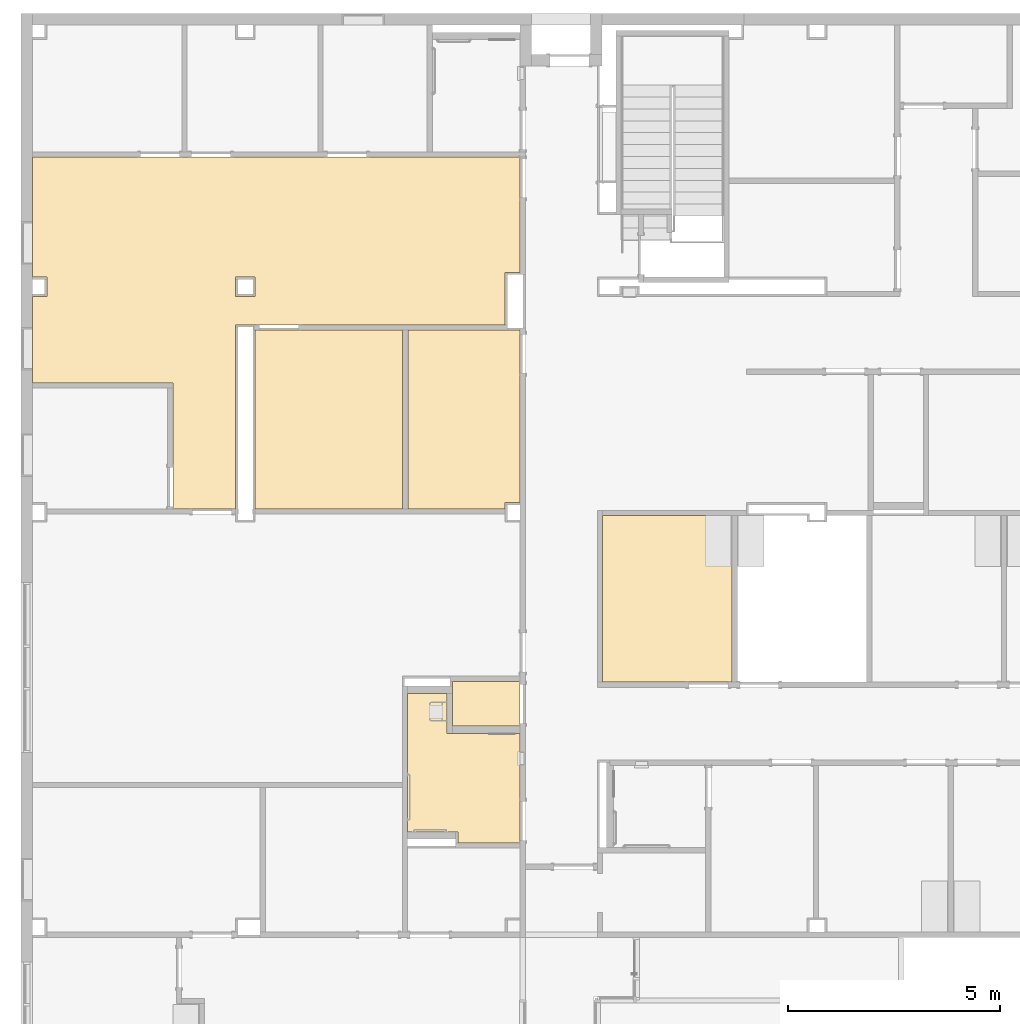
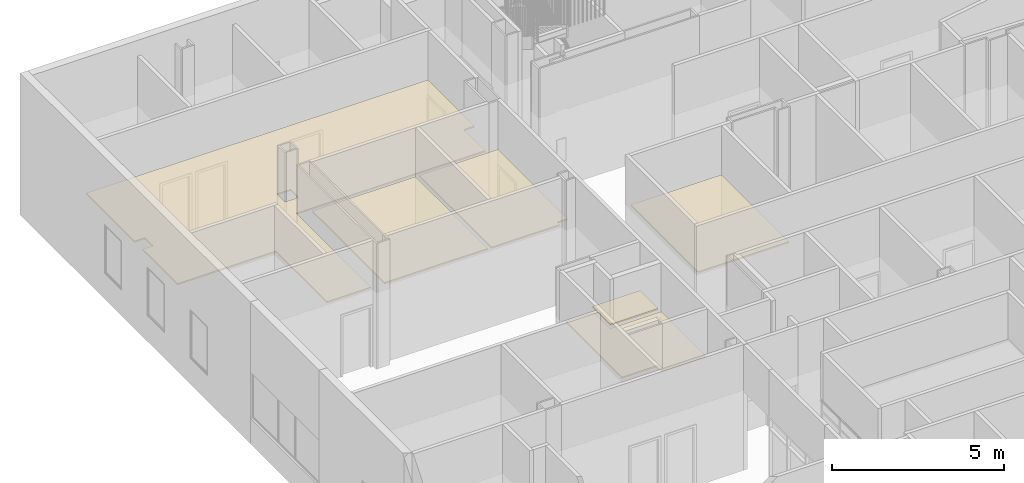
# One storey, part 52 of 87: 6 coverings.
"""IFC2X3 building model written with IfcOpenShell, lengths in metres."""

import ifcopenshell
import ifcopenshell.guid

model = None  # the IFC model being written
_history = None  # IfcOwnerHistory: only IFC2X3 demands one
_inside = {}  # id of a spatial element -> (the spatial element, [elements in it])
_under = {}  # id of a project, library or spatial element -> (it, [spatial elements below it])
_declared = {}  # id of a project -> (the project, [libraries it declares])
_typed = {}  # id of a type object -> (the type object, [elements of that type])
_made_of = {}  # id of a material, layer set ... -> (it, [elements and type objects made of it])


def new_model(schema):
    """Start an empty IFC model of exactly this schema.

    Asked for "IFC4X3", IfcOpenShell would pick the latest addendum, in which some entities
    have other attributes; the version numbers below select the first issue.
    IFC2X3 requires an IfcOwnerHistory on every rooted entity: one is made here for all.
    """
    global model, _history
    if schema == "IFC4X3":
        model = ifcopenshell.file(schema_version=(4, 3, 0, 0))
    else:
        model = ifcopenshell.file(schema=schema)
    _inside.clear()
    _under.clear()
    _declared.clear()
    _typed.clear()
    _made_of.clear()
    _history = None
    if model.schema == "IFC2X3":
        org = make("IfcOrganization", Name="unknown")
        user = make(
            "IfcPersonAndOrganization",
            ThePerson=make("IfcPerson", FamilyName="unknown"),
            TheOrganization=org,
        )
        app = make(
            "IfcApplication",
            ApplicationDeveloper=org,
            Version="unknown",
            ApplicationFullName="unknown",
            ApplicationIdentifier="unknown",
        )
        _history = make(
            "IfcOwnerHistory",
            OwningUser=user,
            OwningApplication=app,
            ChangeAction="ADDED",
            CreationDate=0,
        )
    return model


def make(cls, **values):
    """One entity of the class cls with the attributes given. An attribute that is None is left unset."""
    return model.create_entity(
        cls, **{name: value for name, value in values.items() if value is not None}
    )


def entity(cls, *values):
    """Any entity or typed value of the class cls, its attributes in the order of the schema. None: left unset."""
    e = model.create_entity(cls)
    for i, value in enumerate(values):
        if value is not None:
            e[i] = value
    return e


def rooted(cls, **values):
    """An entity with a GlobalId (a new one), such as an element, a storey or a relation."""
    return make(cls, GlobalId=ifcopenshell.guid.new(), OwnerHistory=_history, **values)


def si_unit(unit_type, name, prefix=None):
    """IfcSIUnit, for example si_unit("LENGTHUNIT", "METRE", prefix="MILLI")."""
    return make("IfcSIUnit", UnitType=unit_type, Prefix=prefix, Name=name)


def converted_unit(unit_type, name, factor, base, dimensions=None, offset=None):
    """IfcConversionBasedUnit, such as the inch: factor (a typed value) times the base unit."""
    return make(
        "IfcConversionBasedUnit"
        if offset is None
        else "IfcConversionBasedUnitWithOffset",
        ConversionOffset=offset,
        Dimensions=None
        if dimensions is None
        else entity("IfcDimensionalExponents", *dimensions),
        UnitType=unit_type,
        Name=name,
        ConversionFactor=make(
            "IfcMeasureWithUnit", ValueComponent=factor, UnitComponent=base
        ),
    )


def assignment(units):
    """IfcUnitAssignment: the units of a project."""
    return None if units is None else make("IfcUnitAssignment", Units=units)


def point(xyz):
    """IfcCartesianPoint."""
    return None if xyz is None else make("IfcCartesianPoint", Coordinates=xyz)


def direction(xyz):
    """IfcDirection."""
    return None if xyz is None else make("IfcDirection", DirectionRatios=xyz)


def frame(location, z_axis=None, x_axis=None):
    """IfcAxis2Placement3D, a coordinate frame: its origin and axes. An axis left out is left unset."""
    return make(
        "IfcAxis2Placement3D",
        Location=point(location),
        Axis=direction(z_axis),
        RefDirection=direction(x_axis),
    )


def origin():
    """The frame at (0, 0, 0) with its axes left unset."""
    return frame((0.0, 0.0, 0.0))


def place(relative_to, where):
    """IfcLocalPlacement: puts the frame where relative to a parent placement (None: the world)."""
    return make(
        "IfcLocalPlacement", PlacementRelTo=relative_to, RelativePlacement=where
    )


def context(
    kind, dimensions, precision=None, world=None, true_north=None, identifier=None
):
    """IfcGeometricRepresentationContext, for example the 3D "Model" context."""
    return make(
        "IfcGeometricRepresentationContext",
        ContextIdentifier=identifier,
        ContextType=kind,
        CoordinateSpaceDimension=dimensions,
        Precision=precision,
        WorldCoordinateSystem=world,
        TrueNorth=true_north,
    )


def project(units=None, contexts=None):
    """IfcProject with its units and contexts."""
    return rooted(
        "IfcProject",
        Name="project",
        RepresentationContexts=contexts,
        UnitsInContext=assignment(units),
    )


def spatial(cls, under=None, at=None, **own):
    """A site, building, storey or space (cls), placed at a placement, below another one or the project."""
    s = rooted(cls, ObjectPlacement=at, **own)
    if under is not None:
        _under.setdefault(under.id(), (under, []))[1].append(s)
    return s


def faces_of(points, faces, orient=None, outer=None):
    """IfcFace entities. A face is a list of loops; a loop is a list of indices into points, from 0.

    orient and outer hold one flag for each loop. By default every Orientation is true, the
    first loop of a face is its IfcFaceOuterBound and the others are IfcFaceBound.
    """
    made = []
    for i, loops in enumerate(faces):
        bounds = []
        for j, loop in enumerate(loops):
            is_outer = j == 0 if outer is None else outer[i][j]
            bounds.append(
                make(
                    "IfcFaceOuterBound" if is_outer else "IfcFaceBound",
                    Bound=make("IfcPolyLoop", Polygon=[points[k] for k in loop]),
                    Orientation=True if orient is None else orient[i][j],
                )
            )
        made.append(make("IfcFace", Bounds=bounds))
    return made


def face_set(faces, orient=None, outer=None):
    """The faces of one IfcConnectedFaceSet. surface_model builds it on its shared points."""
    return ("IfcConnectedFaceSet", faces, orient, outer)


def surface_model(cls, points, shells):
    """IfcFaceBasedSurfaceModel or IfcShellBasedSurfaceModel (cls): surfaces that need not close."""
    shared = [point(p) for p in points]
    made = [make(c, CfsFaces=faces_of(shared, fs, o, b)) for c, fs, o, b in shells]
    if cls == "IfcFaceBasedSurfaceModel":
        return make(cls, FbsmFaces=made)
    return make(cls, SbsmBoundary=made)


def shape(context_of_items, identifier, shape_type, items):
    """IfcShapeRepresentation: the items that make up one representation, for example the "Body"."""
    return make(
        "IfcShapeRepresentation",
        ContextOfItems=context_of_items,
        RepresentationIdentifier=identifier,
        RepresentationType=shape_type,
        Items=items,
    )


def material(Name=None, Category=None):
    """IfcMaterial."""
    return make("IfcMaterial", Name=Name, Category=Category)


def layer(
    of_material, thickness, ventilated=None, Name=None, Category=None, Priority=None
):
    """IfcMaterialLayer: one layer of a wall or slab, of a material (None: an air gap)."""
    return make(
        "IfcMaterialLayer",
        Material=of_material,
        LayerThickness=thickness,
        IsVentilated=ventilated,
        Name=Name,
        Category=Category,
        Priority=Priority,
    )


def layer_set(layers, Name=None):
    """IfcMaterialLayerSet."""
    return make("IfcMaterialLayerSet", MaterialLayers=layers, LayerSetName=Name)


def layer_usage(for_layer_set, set_direction, sense, offset, extent=None):
    """IfcMaterialLayerSetUsage: how a layer set lies in its element."""
    return make(
        "IfcMaterialLayerSetUsage",
        ForLayerSet=for_layer_set,
        LayerSetDirection=set_direction,
        DirectionSense=sense,
        OffsetFromReferenceLine=offset,
        ReferenceExtent=extent,
    )


def made_of(thing, what):
    """Note that an element or type object is made of a material, layer set ...; save() writes the relation."""
    if what is not None:
        _made_of.setdefault(what.id(), (what, []))[1].append(thing)
    return thing


def element(
    cls,
    number,
    at=None,
    inside=None,
    cuts=None,
    type_object=None,
    material=None,
    context=None,
    identifier="Body",
    shape_type=None,
    held_by="IfcProductDefinitionShape",
    body=None,
    shapes=None,
    **own,
):
    """One element of the class cls, such as IfcWall. Its Tag is "e" and its number.

    at: its placement. inside: the storey or other place that contains it. cuts: it is an
    opening in that element (IfcRelVoidsElement). A single representation is given by context,
    identifier, shape_type and body (its items); several are given by shapes. held_by: the class
    of the entity that holds the representations. save() writes the other relations.
    """
    e = rooted(cls, Tag="e%d" % number, ObjectPlacement=at, **own)
    if body is not None:
        shapes = [shape(context, identifier, shape_type, body)]
    if shapes is not None:
        e.Representation = make(held_by, Representations=shapes)
    if inside is not None:
        _inside.setdefault(inside.id(), (inside, []))[1].append(e)
    if cuts is not None:
        rooted(
            "IfcRelVoidsElement", RelatingBuildingElement=cuts, RelatedOpeningElement=e
        )
    if type_object is not None:
        _typed.setdefault(type_object.id(), (type_object, []))[1].append(e)
    return made_of(e, material)


def aggregate(whole, parts):
    """IfcRelAggregates: a whole, such as a stair, and the parts it consists of."""
    return rooted("IfcRelAggregates", RelatingObject=whole, RelatedObjects=parts)


def save(model, path):
    """Write the relations noted so far, then the file.

    IfcRelAggregates (storeys below a building ...), IfcRelContainedInSpatialStructure (elements
    in a storey), IfcRelDefinesByType, IfcRelAssociatesMaterial and IfcRelDeclares: one each for
    every whole, place, type object, material and project.
    """
    for whole, parts in _under.values():
        aggregate(whole, parts)
    for where, things in _inside.values():
        rooted(
            "IfcRelContainedInSpatialStructure",
            RelatedElements=things,
            RelatingStructure=where,
        )
    for kind, things in _typed.values():
        rooted("IfcRelDefinesByType", RelatedObjects=things, RelatingType=kind)
    for what, things in _made_of.values():
        rooted("IfcRelAssociatesMaterial", RelatedObjects=things, RelatingMaterial=what)
    for by, libraries in _declared.values():
        rooted("IfcRelDeclares", RelatingContext=by, RelatedDefinitions=libraries)
    model.write(path)


model = new_model("IFC2X3")

# Units and contexts
model_context = context("Model", 3, precision=1e-09, world=origin())
plan_context = context("Plan", 3, precision=1e-09, world=origin())
ifc_project = project(units=[si_unit("LENGTHUNIT", "METRE"), si_unit("AREAUNIT", "SQUARE_METRE"), si_unit("VOLUMEUNIT", "CUBIC_METRE"), converted_unit("PLANEANGLEUNIT", "DEGREE", entity("IfcRatioMeasure", 0.01745329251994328), si_unit("PLANEANGLEUNIT", "RADIAN"), dimensions=[0, 0, 0, 0, 0, 0, 0]), si_unit("TIMEUNIT", "SECOND")], contexts=[model_context, plan_context])

# Site, building, storey
site_placement = place(None, origin())
site = spatial("IfcSite", under=ifc_project, at=site_placement, Name="Default", CompositionType="ELEMENT")
building_placement = place(site_placement, origin())
building = spatial("IfcBuilding", under=site, at=building_placement, CompositionType="ELEMENT")
storey_placement = place(building_placement, origin())
storey = spatial("IfcBuildingStorey", under=building, at=storey_placement, Name="First Floor", CompositionType="ELEMENT", Elevation=-3.531500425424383e-13)

# Coverings
ifc_material_1 = material(Name="Default")
ifc_layer_1 = layer(ifc_material_1, 0.03599999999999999)
ifc_material_2 = material(Name="Ceiling Tile 600 x 600")
ifc_layer_2 = layer(ifc_material_2, 0.016)
ifc_layer_set = layer_set([ifc_layer_1, ifc_layer_2], Name="Compound Ceiling:ACT 600 x 600mm Grid")
ifc_layer_usage_1 = layer_usage(ifc_layer_set, "AXIS3", "NEGATIVE", 0.0)
covering_1_placement = place(storey_placement, origin())
element("IfcCovering", 1, at=covering_1_placement, inside=storey, material=ifc_layer_usage_1, Name="Compound Ceiling:ACT 600 x 600mm Grid", ObjectType="Compound Ceiling:ACT 600 x 600mm Grid", PredefinedType="CEILING", context=model_context, shape_type="SurfaceModel", body=[
    surface_model("IfcFaceBasedSurfaceModel", [(-38.59600000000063, 40.78399999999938, 2.732), (-38.59600000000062, 44.70599999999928, 2.732), (-35.55000000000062, 44.70599999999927, 2.732), (-35.55000000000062, 40.78399999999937, 2.732), (-38.59600000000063, 40.78399999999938, 2.68), (-38.59600000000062, 44.70599999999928, 2.68), (-35.55000000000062, 44.70599999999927, 2.68), (-35.55000000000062, 40.78399999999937, 2.68)], [face_set([[[0, 1, 2, 3]], [[4, 5, 6, 7]], [[3, 0, 4, 7]], [[2, 3, 7, 6]], [[1, 5, 6, 2]], [[0, 4, 5, 1]]])]),
])
ifc_layer_usage_2 = layer_usage(ifc_layer_set, "AXIS3", "NEGATIVE", 0.0)
covering_2_placement = place(storey_placement, origin())
element("IfcCovering", 2, at=covering_2_placement, inside=storey, material=ifc_layer_usage_2, Name="Compound Ceiling:ACT 600 x 600mm Grid", ObjectType="Compound Ceiling:ACT 600 x 600mm Grid", PredefinedType="CEILING", context=model_context, shape_type="SurfaceModel", body=[
    surface_model("IfcFaceBasedSurfaceModel", [(-52.01300000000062, 53.13999999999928, 2.732), (-40.53700000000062, 53.13999999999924, 2.732), (-40.53700000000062, 50.42999999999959, 2.732), (-40.89000000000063, 50.42999999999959, 2.732), (-40.89000000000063, 49.19399999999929, 2.732), (-47.23000000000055, 49.1939999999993, 2.732), (-47.23000000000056, 44.86399999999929, 2.732), (-48.70500000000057, 44.86399999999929, 2.732), (-48.70500000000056, 47.82999999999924, 2.732), (-52.01300000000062, 47.82999999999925, 2.732), (-52.01300000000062, 49.85999999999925, 2.732), (-51.67000000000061, 49.85999999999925, 2.732), (-51.67000000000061, 50.31999999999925, 2.732), (-52.01300000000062, 50.31999999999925, 2.732), (-46.77000000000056, 50.31999999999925, 2.732), (-47.23000000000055, 50.31999999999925, 2.732), (-47.23000000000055, 49.85999999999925, 2.732), (-46.77000000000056, 49.85999999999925, 2.732), (-52.01300000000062, 53.13999999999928, 2.68), (-40.53700000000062, 53.13999999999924, 2.68), (-40.53700000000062, 50.42999999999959, 2.68), (-40.89000000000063, 50.42999999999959, 2.68), (-40.89000000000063, 49.19399999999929, 2.68), (-47.23000000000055, 49.1939999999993, 2.68), (-47.23000000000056, 44.86399999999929, 2.68), (-48.70500000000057, 44.86399999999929, 2.68), (-48.70500000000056, 47.82999999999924, 2.68), (-52.01300000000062, 47.82999999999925, 2.68), (-52.01300000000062, 49.85999999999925, 2.68), (-51.67000000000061, 49.85999999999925, 2.68), (-51.67000000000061, 50.31999999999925, 2.68), (-52.01300000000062, 50.31999999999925, 2.68), (-46.77000000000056, 50.31999999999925, 2.68), (-47.23000000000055, 50.31999999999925, 2.68), (-47.23000000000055, 49.85999999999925, 2.68), (-46.77000000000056, 49.85999999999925, 2.68)], [face_set([[[0, 1, 2, 3, 4, 5, 6, 7, 8, 9, 10, 11, 12, 13], [14, 15, 16, 17]], [[18, 19, 20, 21, 22, 23, 24, 25, 26, 27, 28, 29, 30, 31], [32, 33, 34, 35]], [[16, 34, 35, 17]], [[15, 16, 34, 33]], [[14, 15, 33, 32]], [[17, 35, 32, 14]], [[13, 31, 18, 0]], [[12, 13, 31, 30]], [[11, 29, 30, 12]], [[10, 28, 29, 11]], [[9, 27, 28, 10]], [[8, 9, 27, 26]], [[7, 25, 26, 8]], [[6, 7, 25, 24]], [[5, 6, 24, 23]], [[4, 5, 23, 22]], [[3, 4, 22, 21]], [[2, 3, 21, 20]], [[1, 2, 20, 19]], [[0, 18, 19, 1]]])]),
])
ifc_layer_usage_3 = layer_usage(ifc_layer_set, "AXIS3", "NEGATIVE", 0.0)
covering_3_placement = place(storey_placement, origin())
element("IfcCovering", 3, at=covering_3_placement, inside=storey, material=ifc_layer_usage_3, Name="Compound Ceiling:ACT 600 x 600mm Grid", ObjectType="Compound Ceiling:ACT 600 x 600mm Grid", PredefinedType="CEILING", context=model_context, shape_type="SurfaceModel", body=[
    surface_model("IfcFaceBasedSurfaceModel", [(-46.77000000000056, 49.06999999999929, 2.732), (-43.30400000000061, 49.06999999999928, 2.732), (-43.30400000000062, 44.86399999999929, 2.732), (-46.77000000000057, 44.86399999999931, 2.732), (-46.77000000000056, 49.06999999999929, 2.68), (-43.30400000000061, 49.06999999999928, 2.68), (-43.30400000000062, 44.86399999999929, 2.68), (-46.77000000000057, 44.86399999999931, 2.68)], [face_set([[[0, 1, 2, 3]], [[4, 5, 6, 7]], [[2, 3, 7, 6]], [[1, 2, 6, 5]], [[0, 4, 5, 1]], [[3, 7, 4, 0]]])]),
])
ifc_layer_usage_4 = layer_usage(ifc_layer_set, "AXIS3", "NEGATIVE", 0.0)
covering_4_placement = place(storey_placement, origin())
element("IfcCovering", 4, at=covering_4_placement, inside=storey, material=ifc_layer_usage_4, Name="Compound Ceiling:ACT 600 x 600mm Grid", ObjectType="Compound Ceiling:ACT 600 x 600mm Grid", PredefinedType="CEILING", context=model_context, shape_type="SurfaceModel", body=[
    surface_model("IfcFaceBasedSurfaceModel", [(-42.25480000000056, 39.57339999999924, 2.732), (-40.53700000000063, 39.57339999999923, 2.732), (-40.53700000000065, 37.00399999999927, 2.732), (-42.0, 37.00399999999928, 2.732), (-42.0, 37.25999999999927, 2.732), (-43.18600000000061, 37.25999999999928, 2.732), (-43.1860000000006, 40.52339999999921, 2.732), (-42.25480000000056, 40.52339999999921, 2.732), (-42.25480000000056, 39.57339999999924, 2.68), (-40.53700000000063, 39.57339999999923, 2.68), (-40.53700000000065, 37.00399999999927, 2.68), (-42.0, 37.00399999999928, 2.68), (-42.0, 37.25999999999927, 2.68), (-43.18600000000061, 37.25999999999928, 2.68), (-43.1860000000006, 40.52339999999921, 2.68), (-42.25480000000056, 40.52339999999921, 2.68)], [face_set([[[0, 1, 2, 3, 4, 5, 6, 7]], [[8, 9, 10, 11, 12, 13, 14, 15]], [[7, 0, 8, 15]], [[6, 14, 15, 7]], [[5, 13, 14, 6]], [[4, 5, 13, 12]], [[3, 11, 12, 4]], [[2, 3, 11, 10]], [[1, 2, 10, 9]], [[0, 8, 9, 1]]])]),
])
ifc_layer_usage_5 = layer_usage(ifc_layer_set, "AXIS3", "NEGATIVE", 0.0)
covering_5_placement = place(storey_placement, origin())
element("IfcCovering", 5, at=covering_5_placement, inside=storey, material=ifc_layer_usage_5, Name="Compound Ceiling:ACT 600 x 600mm Grid", ObjectType="Compound Ceiling:ACT 600 x 600mm Grid", PredefinedType="CEILING", context=model_context, shape_type="SurfaceModel", body=[
    surface_model("IfcFaceBasedSurfaceModel", [(-40.53700000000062, 49.06999999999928, 2.732), (-40.53700000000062, 45.00999999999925, 2.732), (-40.89000000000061, 45.00999999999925, 2.732), (-40.89000000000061, 44.86399999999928, 2.732), (-43.18000000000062, 44.86399999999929, 2.732), (-43.1800000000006, 49.06999999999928, 2.732), (-40.53700000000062, 49.06999999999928, 2.68), (-40.53700000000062, 45.00999999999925, 2.68), (-40.89000000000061, 45.00999999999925, 2.68), (-40.89000000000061, 44.86399999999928, 2.68), (-43.18000000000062, 44.86399999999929, 2.68), (-43.1800000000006, 49.06999999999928, 2.68)], [face_set([[[0, 1, 2, 3, 4, 5]], [[6, 7, 8, 9, 10, 11]], [[5, 11, 6, 0]], [[4, 10, 11, 5]], [[3, 4, 10, 9]], [[2, 3, 9, 8]], [[1, 2, 8, 7]], [[0, 1, 7, 6]]])]),
])
ifc_layer_usage_6 = layer_usage(ifc_layer_set, "AXIS3", "NEGATIVE", 0.0)
covering_6_placement = place(storey_placement, origin())
element("IfcCovering", 6, at=covering_6_placement, inside=storey, material=ifc_layer_usage_6, Name="Compound Ceiling:ACT 600 x 600mm Grid", ObjectType="Compound Ceiling:ACT 600 x 600mm Grid", PredefinedType="CEILING", context=model_context, shape_type="SurfaceModel", body=[
    surface_model("IfcFaceBasedSurfaceModel", [(-40.53700000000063, 40.80599999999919, 2.732), (-40.53700000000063, 39.75739999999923, 2.732), (-42.13080000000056, 39.75739999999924, 2.732), (-42.13080000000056, 40.80599999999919, 2.732), (-40.53700000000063, 40.80599999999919, 2.68), (-40.53700000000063, 39.75739999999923, 2.68), (-42.13080000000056, 39.75739999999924, 2.68), (-42.13080000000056, 40.80599999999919, 2.68)], [face_set([[[0, 1, 2, 3]], [[4, 5, 6, 7]], [[3, 7, 4, 0]], [[2, 6, 7, 3]], [[1, 2, 6, 5]], [[0, 1, 5, 4]]])]),
])

save(model, "model.ifc")
